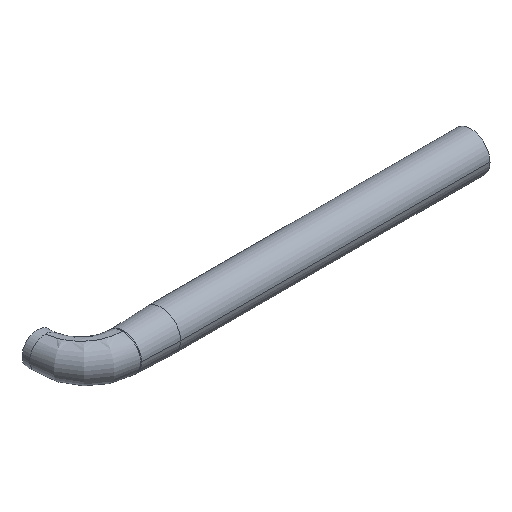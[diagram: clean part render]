
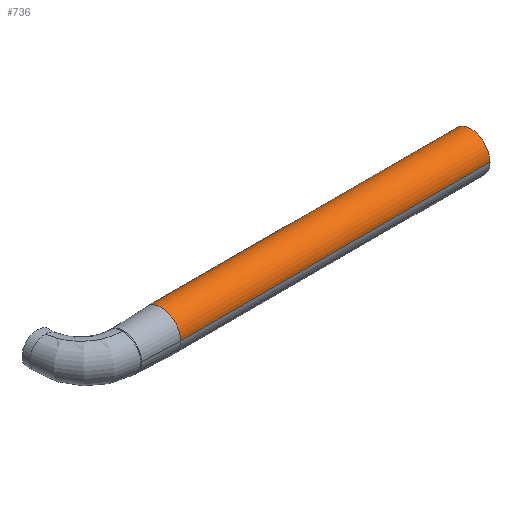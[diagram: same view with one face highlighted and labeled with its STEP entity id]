
A CAD part, isometric view. The second image highlights one B-rep face of the part: STEP entity #736.
In plain terms, the highlighted cylindrical face has radius 12.5 mm (diameter 25 mm), a partial arc.
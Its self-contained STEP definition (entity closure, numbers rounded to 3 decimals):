
#736=ADVANCED_FACE('',(#860),#859,.T.);
#859=CYLINDRICAL_SURFACE('',#1140,12.5);
#860=FACE_OUTER_BOUND('',#1141,.T.);
#1137=CARTESIAN_POINT('',(144.448,156.988,0.));
#1138=DIRECTION('',(-1.,0.,0.));
#1139=DIRECTION('',(0.,1.,0.));
#1140=AXIS2_PLACEMENT_3D('',#1137,#1138,#1139);
#1141=EDGE_LOOP('',(#2228,#2229,#2230,#2231));
#2228=ORIENTED_EDGE('',*,*,#2316,.T.);
#2229=ORIENTED_EDGE('',*,*,#2341,.T.);
#2230=ORIENTED_EDGE('',*,*,#2343,.T.);
#2231=ORIENTED_EDGE('',*,*,#2342,.F.);
#2316=EDGE_CURVE('',#2404,#2405,#2406,.T.);
#2341=EDGE_CURVE('',#2405,#2568,#2575,.T.);
#2342=EDGE_CURVE('',#2404,#2567,#2581,.T.);
#2343=EDGE_CURVE('',#2568,#2567,#2587,.T.);
#2404=VERTEX_POINT('',#2849);
#2405=VERTEX_POINT('',#2850);
#2406=CIRCLE('',#2854,12.5);
#2567=VERTEX_POINT('',#2988);
#2568=VERTEX_POINT('',#2989);
#2575=(BOUNDED_CURVE() B_SPLINE_CURVE(1,(#2994,#2995),.UNSPECIFIED.,.F.,.F.) B_SPLINE_CURVE_WITH_KNOTS((2,2),(0.045,0.955),.UNSPECIFIED.) CURVE() GEOMETRIC_REPRESENTATION_ITEM() RATIONAL_B_SPLINE_CURVE((1.,1.)) REPRESENTATION_ITEM('') );
#2581=(BOUNDED_CURVE() B_SPLINE_CURVE(1,(#2996,#2997),.UNSPECIFIED.,.F.,.F.) B_SPLINE_CURVE_WITH_KNOTS((2,2),(0.045,0.955),.UNSPECIFIED.) CURVE() GEOMETRIC_REPRESENTATION_ITEM() RATIONAL_B_SPLINE_CURVE((0.75,0.75)) REPRESENTATION_ITEM('') );
#2587=CIRCLE('',#3001,12.5);
#2849=CARTESIAN_POINT('',(344.448,144.488,0.));
#2850=CARTESIAN_POINT('',(344.448,169.488,0.));
#2851=CARTESIAN_POINT('',(344.448,156.988,0.));
#2852=DIRECTION('',(-1.,0.,0.));
#2853=DIRECTION('',(0.,1.,0.));
#2854=AXIS2_PLACEMENT_3D('',#2851,#2852,#2853);
#2988=CARTESIAN_POINT('',(144.448,144.488,0.));
#2989=CARTESIAN_POINT('',(144.448,169.488,0.));
#2994=CARTESIAN_POINT('',(344.448,169.488,0.));
#2995=CARTESIAN_POINT('',(144.448,169.488,0.));
#2996=CARTESIAN_POINT('',(344.448,144.488,0.));
#2997=CARTESIAN_POINT('',(144.448,144.488,0.));
#2998=CARTESIAN_POINT('',(144.448,156.988,0.));
#2999=DIRECTION('',(1.,0.,0.));
#3000=DIRECTION('',(0.,-1.,0.));
#3001=AXIS2_PLACEMENT_3D('',#2998,#2999,#3000);
